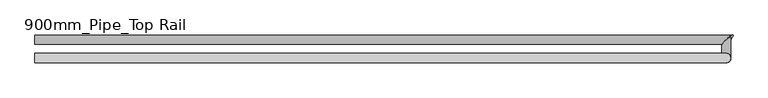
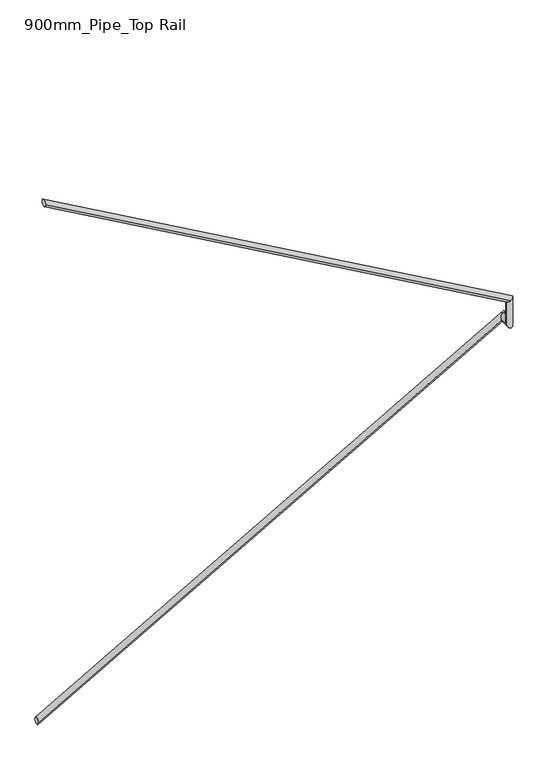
"""IFC4 building model written with IfcOpenShell, lengths in millimetres: railing geometry, 900mm_Pipe_Top Rail."""

from ifc_helpers import new_model, si_unit, frame, origin, place, context, project, spatial, ellipse_curve, source, transform, mapped, element, save
from ifc_brep_helpers import plane_surface, cylinder_surface, advanced_brep


def railing_900mm_pipe_top_rail_4b9b368b(model_context):
    return source(origin(), model_context, "Body", "AdvancedBrep", [
        advanced_brep(
        [(-801.4958562, 12314.5395051, 12307.451671), (-801.4958562, 12354.5395051, 12307.451671), (2190.9952008, 12314.5395051, 14007.7306807), (2225.7734631, 12354.5395051, 14027.491057)],
        [
            (0, 1, ellipse_curve(frame((-801.4958562, 12334.5395051, 12307.451671), z_axis=(-1.0, 0.0, 0.0), x_axis=(0.0, 0.0, -1.0)), 23.0028744, 20.0)),
            (1, 0, ellipse_curve(frame((-801.4958562, 12334.5395051, 12307.451671), z_axis=(-1.0, 0.0, 0.0), x_axis=(0.0, 0.0, -1.0)), 23.0028744, 20.0)),
            (2, 3, ellipse_curve(frame((2208.3843319, 12334.5395051, 14017.6108689), z_axis=(0.6147986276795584, -0.7071067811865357, 0.34931740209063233), x_axis=(-0.6147986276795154, -0.7071067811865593, -0.34931740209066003)), 28.2842712, 20.0)),
            (3, 2, ellipse_curve(frame((2208.3843319, 12334.5395051, 14017.6108689), z_axis=(0.6147986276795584, -0.7071067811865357, 0.34931740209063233), x_axis=(-0.6147986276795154, -0.7071067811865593, -0.34931740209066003)), 28.2842712, 20.0)),
            (0, 2),
            (3, 1),
        ],
        [
            plane_surface(frame((-801.4958562, 12334.5395051, 12330.4545455), z_axis=(-1.0, 0.0, 0.0), x_axis=(0.0, 1.0, 0.0))),
            plane_surface(frame((2198.5041438, 12334.5395051, 14035.0), z_axis=(0.6147986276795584, -0.7071067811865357, 0.34931740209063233), x_axis=(0.7886841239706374, 0.5512070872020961, -0.2723014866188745))),
            cylinder_surface(frame((-791.6156681, 12334.5395051, 12313.0654143), z_axis=(-0.8694565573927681, 0.0, -0.4940094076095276), x_axis=(0.0, 1.0, 0.0)), 20.0),
        ],
        [
            (0, [[1, 2]]),
            (1, [[3, 4]]),
            (2, [[-1, 5, -4, 6]]),
            (2, [[-2, -6, -3, -5]]),
        ],
    ),
        advanced_brep(
        [(2178.9041438, 12307.2701858, 14015.0), (2218.9041438, 12342.0484481, 14015.0), (2178.9041438, 12254.2238126, 14015.0), (2218.9041438, 12254.2238126, 14015.0)],
        [
            (0, 1, ellipse_curve(frame((2198.9041438, 12324.6593169, 14015.0), z_axis=(-0.6147986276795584, 0.7071067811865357, -0.34931740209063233), x_axis=(0.6147986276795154, 0.7071067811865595, 0.3493174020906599)), 28.2842712, 20.0)),
            (1, 0, ellipse_curve(frame((2198.9041438, 12324.6593169, 14015.0), z_axis=(-0.6147986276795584, 0.7071067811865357, -0.34931740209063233), x_axis=(0.6147986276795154, 0.7071067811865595, 0.3493174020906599)), 28.2842712, 20.0)),
            (2, 3, ellipse_curve(frame((2198.9041438, 12254.2238126, 14015.0), z_axis=(0.0, -0.7071067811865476, 0.7071067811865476), x_axis=(0.0, 0.7071067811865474, 0.7071067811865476)), 28.2842712, 20.0)),
            (3, 2, ellipse_curve(frame((2198.9041438, 12254.2238126, 14015.0), z_axis=(0.0, -0.7071067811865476, 0.7071067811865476), x_axis=(0.0, 0.7071067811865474, 0.7071067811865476)), 28.2842712, 20.0)),
            (0, 2),
            (3, 1),
        ],
        [
            plane_surface(frame((2198.9041438, 12334.5395051, 14035.0), z_axis=(-0.6147986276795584, 0.7071067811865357, -0.34931740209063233), x_axis=(0.7886841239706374, 0.5512070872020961, -0.2723014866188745))),
            plane_surface(frame((2198.9041438, 12274.2238126, 14035.0), z_axis=(0.0, -0.7071067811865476, 0.7071067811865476), x_axis=(1.0, 0.0, 0.0))),
            cylinder_surface(frame((2198.9041438, 12334.5395051, 14015.0), z_axis=(0.0, 1.0, 0.0), x_axis=(1.0, 0.0, 0.0)), 20.0),
        ],
        [
            (0, [[1, 2]]),
            (1, [[3, 4]]),
            (2, [[-1, 5, -4, 6]]),
            (2, [[-2, -6, -3, -5]]),
        ],
    ),
        advanced_brep(
        [(2178.9041438, 12254.2238126, 14015.0), (2218.9041438, 12254.2238126, 14015.0), (2178.9041438, 12254.2238126, 14170.5851603), (2218.9041438, 12254.2238126, 14193.8636364)],
        [
            (0, 1, ellipse_curve(frame((2198.9041438, 12254.2238126, 14015.0), z_axis=(0.0, 0.7071067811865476, -0.7071067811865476), x_axis=(0.0, -0.7071067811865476, -0.7071067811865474)), 28.2842712, 20.0)),
            (1, 0, ellipse_curve(frame((2198.9041438, 12254.2238126, 14015.0), z_axis=(0.0, 0.7071067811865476, -0.7071067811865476), x_axis=(0.0, -0.7071067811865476, -0.7071067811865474)), 28.2842712, 20.0)),
            (2, 3, ellipse_curve(frame((2198.9041438, 12254.2238126, 14182.2243983), z_axis=(-0.5029863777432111, 0.0, 0.8642943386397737), x_axis=(-0.8642943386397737, 0.0, -0.502986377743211)), 23.140265, 20.0)),
            (3, 2, ellipse_curve(frame((2198.9041438, 12254.2238126, 14182.2243983), z_axis=(-0.5029863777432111, 0.0, 0.8642943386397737), x_axis=(-0.8642943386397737, 0.0, -0.502986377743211)), 23.140265, 20.0)),
            (0, 2),
            (3, 1),
        ],
        [
            plane_surface(frame((2198.9041438, 12254.2238126, 14015.0), z_axis=(0.0, 0.7071067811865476, -0.7071067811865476), x_axis=(1.0, 0.0, 0.0))),
            plane_surface(frame((2198.9041438, 12254.2238126, 14182.2243983), z_axis=(-0.5029863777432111, 0.0, 0.8642943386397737), x_axis=(0.8642943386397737, 0.0, 0.5029863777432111))),
            cylinder_surface(frame((2198.9041438, 12254.2238126, 14015.0), z_axis=(0.0, 0.0, -1.0), x_axis=(1.0, 0.0, 0.0)), 20.0),
        ],
        [
            (0, [[1, 2]]),
            (1, [[3, 4]]),
            (2, [[-1, 5, -4, 6]]),
            (2, [[-2, -6, -3, -5]]),
        ],
    ),
        advanced_brep(
        [(2198.9041438, 12274.2238126, 14182.2243983), (2198.9041438, 12234.2238126, 14182.2243983), (-801.4958562, 12274.2238126, 15886.9971256), (-801.4958562, 12234.2238126, 15886.9971256)],
        [
            (0, 1, ellipse_curve(frame((2198.9041438, 12254.2238126, 14182.2243983), z_axis=(0.5029863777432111, 0.0, -0.8642943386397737), x_axis=(0.8642943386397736, 0.0, 0.5029863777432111)), 23.140265, 20.0)),
            (1, 0, ellipse_curve(frame((2198.9041438, 12254.2238126, 14182.2243983), z_axis=(0.5029863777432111, 0.0, -0.8642943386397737), x_axis=(0.8642943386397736, 0.0, 0.5029863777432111)), 23.140265, 20.0)),
            (2, 3, ellipse_curve(frame((-801.4958562, 12254.2238126, 15886.9971256), z_axis=(-1.0, 0.0, 0.0), x_axis=(0.0, 0.0, -1.0)), 23.0028744, 20.0)),
            (3, 2, ellipse_curve(frame((-801.4958562, 12254.2238126, 15886.9971256), z_axis=(-1.0, 0.0, 0.0), x_axis=(0.0, 0.0, -1.0)), 23.0028744, 20.0)),
            (0, 2),
            (3, 1),
        ],
        [
            plane_surface(frame((2218.9041438, 12254.2238126, 14193.8636364), z_axis=(0.5029863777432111, 0.0, -0.8642943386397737), x_axis=(0.8642943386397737, 0.0, 0.5029863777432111))),
            plane_surface(frame((-801.4958562, 12254.2238126, 15910.0), z_axis=(-1.0, 0.0, 0.0), x_axis=(0.0, -1.0, 0.0))),
            cylinder_surface(frame((2209.0239556, 12254.2238126, 14176.4745052), z_axis=(0.8694565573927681, 0.0, -0.49400940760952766), x_axis=(0.0, -1.0, 0.0)), 20.0),
        ],
        [
            (0, [[1, 2]]),
            (1, [[3, 4]]),
            (2, [[-1, 5, -4, 6]]),
            (2, [[-2, -6, -3, -5]]),
        ],
    ),
    ])


if __name__ == "__main__":
    model = new_model("IFC4")
    model_context = context("Model", 3, world=origin())
    ifc_project = project(units=[si_unit("LENGTHUNIT", "METRE", prefix="MILLI")], contexts=[model_context])
    site = spatial("IfcSite", under=ifc_project)
    building = spatial("IfcBuilding", under=site)
    placement = place(None, origin())
    railing_900mm_pipe_top_rail_shape = railing_900mm_pipe_top_rail_4b9b368b(model_context)
    element("IfcRailing", 1, ObjectType="900mm_Pipe_Top Rail", at=placement, inside=building, context=model_context, shape_type="MappedRepresentation", body=[
        mapped(railing_900mm_pipe_top_rail_shape, transform((0.0, 0.0, 0.0), x_axis=(1.0, 0.0, 0.0), y_axis=(0.0, 1.0, 0.0), z_axis=(0.0, 0.0, 1.0))),
    ])
    save(model, "model.ifc")
